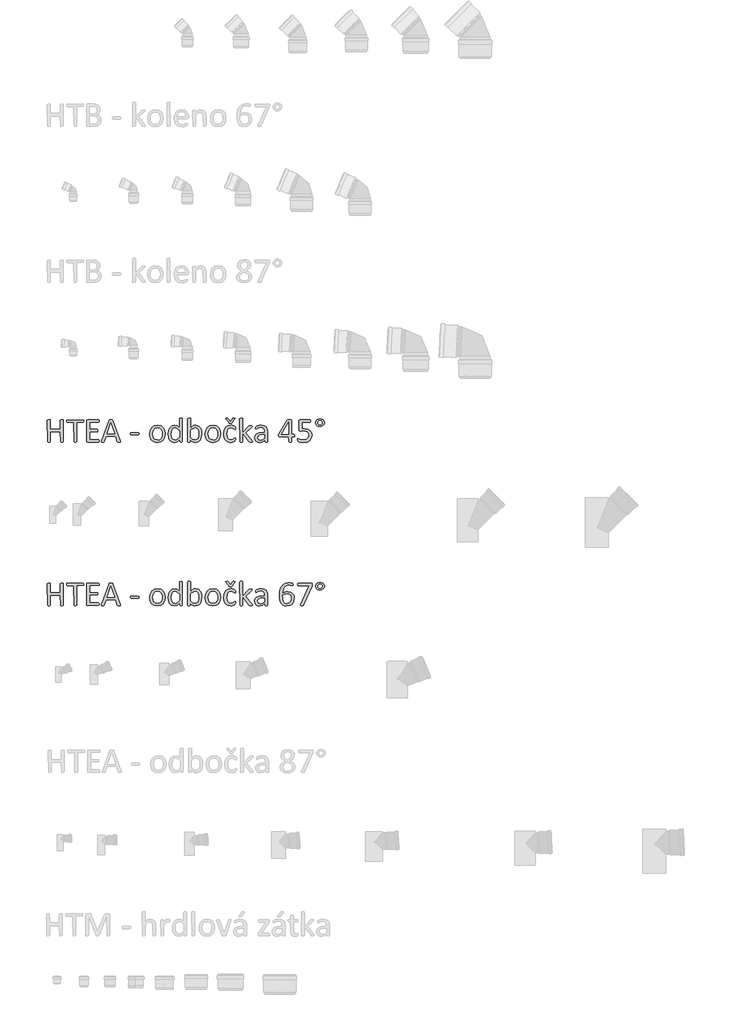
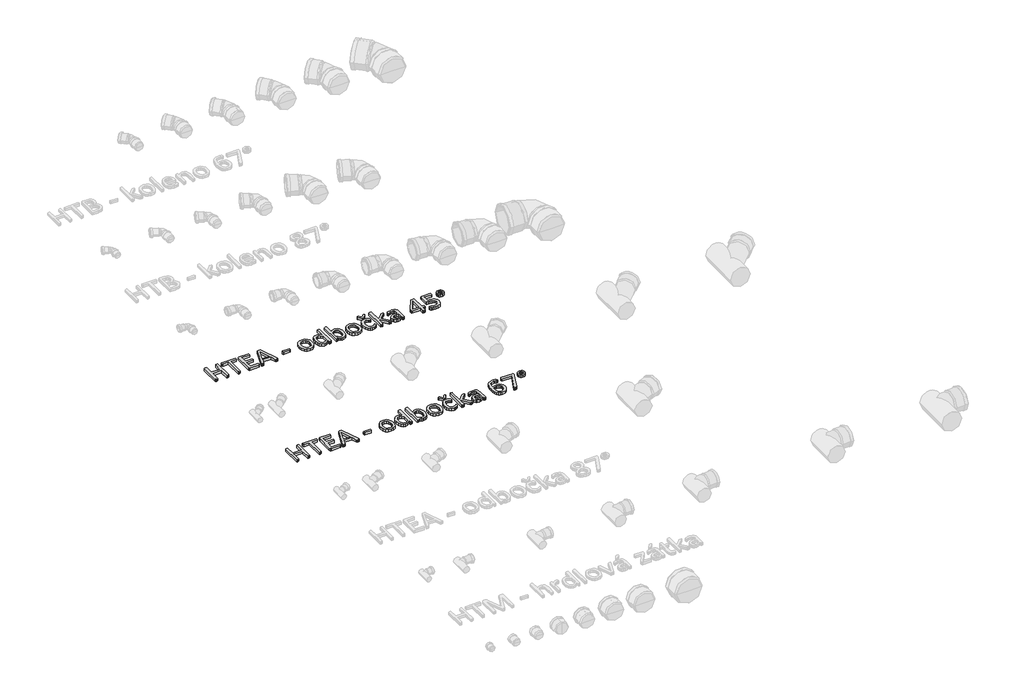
# One storey, part 23 of 26: 2 proxies.
"""IFC4 building model written with IfcOpenShell, lengths in millimetres."""

from ifc_helpers import new_model, si_unit, origin, origin_with_axes, place, context, project, spatial, polyline, outline, extrude, element, save

model = new_model("IFC4")

# Units and contexts
model_context = context("Model", 3, world=origin())
ifc_project = project(units=[si_unit("LENGTHUNIT", "METRE", prefix="MILLI")], contexts=[model_context])

# Site, building, storey
site = spatial("IfcSite", under=ifc_project)
building = spatial("IfcBuilding", under=site)
storey = spatial("IfcBuildingStorey", under=building, Name="Podlaží 1", Elevation=0.0)

# Proxies
placement = place(None, origin())
element("IfcBuildingElementProxy", 1, Name="120mm Arial", ObjectType="120mm Arial", at=placement, inside=storey, context=model_context, shape_type="SweptSolid", body=[
    extrude(outline(polyline([(-20465.0657483, 17908.0506997), (-20469.2817655, 17905.3184311), (-20473.1358927, 17905.0832026), (-20477.1166815, 17905.3184311), (-20479.5775327, 17905.8612659), (-20481.2784151, 17960.6694889), (-20534.5486061, 17960.6694889), (-20534.5486061, 17908.0145107), (-20538.7465288, 17905.3184311), (-20542.6549395, 17905.0832026), (-20546.5271613, 17905.3184311), (-20549.0603905, 17905.8793604), (-20550.7612729, 18022.5526591), (-20546.5271613, 18025.2849277), (-20542.6549395, 18025.5201562), (-20538.7465288, 18025.2849277), (-20536.2494886, 18024.7239984), (-20534.5486061, 17974.5660604), (-20481.2784151, 17974.5660604), (-20481.2784151, 18022.5526591), (-20477.1166815, 18025.2849277), (-20473.1358927, 18025.5201562), (-20469.2817655, 18025.2849277), (-20466.7666308, 18024.7239984), (-20465.0657483, 17908.0506997)])), origin_with_axes(), (0.0, 0.0, 1.0), 15.0),
    extrude(outline(polyline([(-20356.2092711, 18018.4633034), (-20356.390216, 18015.3329559), (-20356.9873343, 18013.1978056), (-20393.2667952, 18011.6235846), (-20393.2667952, 17908.0506997), (-20397.4647179, 17905.3184311), (-20401.3731287, 17905.0832026), (-20405.2453504, 17905.3184311), (-20407.7785796, 17905.8793604), (-20409.4794621, 18011.6235846), (-20443.3885442, 18011.6235846), (-20446.3017578, 18015.3329559), (-20446.5369862, 18018.4633034), (-20446.3017578, 18021.6660289), (-20445.686545, 18023.9097462), (-20359.3939021, 18025.5201562), (-20357.0054288, 18023.9097462), (-20356.390216, 18021.6660289), (-20356.2092711, 18018.4633034)])), origin_with_axes(), (0.0, 0.0, 1.0), 15.0),
    extrude(outline(polyline([(-20272.8298417, 17911.9952994), (-20273.0107867, 17908.9192354), (-20273.6621885, 17906.7298016), (-20274.7478581, 17905.463187), (-20334.0254212, 17905.0832026), (-20338.0785879, 17906.5307622), (-20339.9966043, 17911.5972206), (-20339.9966043, 18019.0061382), (-20338.0604934, 18024.0725966), (-20333.9530432, 18025.5201562), (-20276.0506617, 18025.5201562), (-20273.680283, 18023.8735572), (-20273.0650701, 18021.6841234), (-20272.8298417, 18018.4271144), (-20273.0650701, 18015.3691449), (-20273.680283, 18013.2159001), (-20323.7839374, 18011.6235846), (-20323.7839374, 17974.5660604), (-20282.9627585, 17974.5660604), (-20280.5742852, 17972.865178), (-20279.9590724, 17970.6757442), (-20279.7781275, 17967.3644517), (-20279.9590724, 17964.2702932), (-20280.5742852, 17962.1713319), (-20323.7839374, 17960.6694889), (-20323.7839374, 17918.9797742), (-20276.0868507, 17918.9797742), (-20273.6621885, 17917.3874587), (-20273.0107867, 17915.2342139), (-20272.8298417, 17911.9952994)])), origin_with_axes(), (0.0, 0.0, 1.0), 15.0),
    extrude(outline(polyline([(-20157.7488585, 17911.3438976), (-20156.9707952, 17908.0506997), (-20157.658386, 17906.1145888), (-20160.1192372, 17905.2641476), (-20164.6971443, 17905.0832026), (-20169.3112403, 17905.2279586), (-20171.898753, 17905.6984154), (-20173.9977143, 17907.9783217), (-20184.275387, 17937.5085363), (-20234.1800021, 17937.5085363), (-20243.9872179, 17908.3764006), (-20244.7471867, 17906.928841), (-20246.0861793, 17905.8793604), (-20248.5832195, 17905.2641476), (-20252.8173311, 17905.0832026), (-20257.2142932, 17905.3184311), (-20259.6208609, 17906.2050613), (-20260.2722627, 17908.1230777), (-20259.476105, 17911.4162756), (-20219.2339498, 18022.2269582), (-20218.2749417, 18023.8735572), (-20216.5016812, 18024.8687544), (-20213.5341842, 18025.3754002), (-20208.9562771, 18025.5201562), (-20204.0345747, 18025.3754002), (-20200.8680382, 18024.8687544), (-20199.0223998, 18023.8373682), (-20197.9910136, 18022.1545802), (-20157.7488585, 17911.3438976)]), holes=[polyline([(-20209.390545, 18009.3074893), (-20230.1630244, 17949.0890126), (-20188.4371207, 17949.0890126), (-20209.390545, 18009.3074893)])]), origin_with_axes(), (0.0, 0.0, 1.0), 15.0),
    extrude(outline(polyline([(-20057.4329825, 17950.2832492), (-20058.2834238, 17945.7234367), (-20060.7623695, 17944.4568221), (-20100.3531228, 17944.4568221), (-20102.9044465, 17945.7596256), (-20103.7548877, 17950.2832492), (-20102.9044465, 17954.7706838), (-20100.3531228, 17956.0372984), (-20060.7623695, 17956.0372984), (-20057.668211, 17952.9974233), (-20057.4329825, 17950.2832492)])), origin_with_axes(), (0.0, 0.0, 1.0), 15.0),
    extrude(outline(polyline([(-19916.1511717, 17949.9937373), (-19918.8291568, 17931.0126129), (-19926.8450178, 17916.0665606), (-19940.1987545, 17906.2774393), (-19958.7818001, 17902.7671074), (-19976.6953493, 17905.8612659), (-19989.4338733, 17914.8542295), (-19997.0335608, 17929.1850689), (-19999.530601, 17948.2928548), (-19996.8888049, 17967.2739793), (-19988.9272274, 17982.201937), (-19975.6277742, 17991.9367749), (-19957.0085396, 17995.4109178), (-19939.0768959, 17992.3167593), (-19926.3383719, 17983.3237956), (-19918.7024954, 17968.9929562), (-19916.1511717, 17949.9937373)]), holes=[polyline([(-19932.3638385, 17948.9080676), (-19933.6123586, 17961.4837411), (-19937.7198088, 17971.8699808), (-19945.4461578, 17978.9268335), (-19957.6237524, 17981.5143462), (-19969.1861342, 17979.1439675), (-19977.1477117, 17972.4490046), (-19981.7979967, 17962.2075209), (-19983.3179342, 17949.2699575), (-19982.0694141, 17936.6219061), (-19977.9257749, 17926.2718554), (-19970.1451424, 17919.2511916), (-19957.9856423, 17916.6636789), (-19946.4594495, 17919.0340577), (-19938.4435886, 17925.6747371), (-19933.8294925, 17935.8800318), (-19932.3638385, 17948.9080676)])]), origin_with_axes(), (0.0, 0.0, 1.0), 15.0),
    extrude(outline(polyline([(-19823.8330622, 17907.9783217), (-19827.2167326, 17905.2641476), (-19830.528025, 17905.0832026), (-19833.9659789, 17905.2641476), (-19836.2096962, 17905.7346044), (-19837.8743897, 17918.0388605), (-19851.3185989, 17906.8021796), (-19866.5722575, 17902.7671074), (-19881.9887666, 17906.3679117), (-19892.3207228, 17916.1027496), (-19898.1109609, 17930.542156), (-19899.9385049, 17948.0033429), (-19897.6585986, 17967.6358691), (-19890.9274467, 17982.5819214), (-19879.8898053, 17992.0815308), (-19864.6542411, 17995.4109178), (-19851.4995438, 17992.1720033), (-19839.7200281, 17982.6723938), (-19839.7200281, 18031.7808512), (-19838.0553346, 18033.9883794), (-19835.5582944, 18034.5493088), (-19831.7222617, 18034.7845372), (-19827.7052839, 18034.5493088), (-19825.2625272, 18033.9883794), (-19823.9416291, 18033.0655602), (-19823.8330622, 17907.9783217)]), holes=[polyline([(-19839.7200281, 17966.1702151), (-19851.3366934, 17977.587841), (-19863.0257367, 17981.5143462), (-19872.6158186, 17978.7639831), (-19879.0212695, 17971.5080909), (-19882.6039794, 17961.3027962), (-19883.725838, 17949.7404144), (-19882.7849243, 17937.5085363), (-19879.5098209, 17926.9051627), (-19873.3215039, 17919.4683255), (-19863.6409495, 17916.6636789), (-19857.9592783, 17917.4779312), (-19852.3499851, 17920.1740108), (-19846.3607075, 17925.0595243), (-19839.7200281, 17932.4782669), (-19839.7200281, 17966.1702151)])]), origin_with_axes(), (0.0, 0.0, 1.0), 15.0),
    extrude(outline(polyline([(-19719.2830746, 17950.1746822), (-19721.5991698, 17930.4516835), (-19728.4207942, 17915.5056313), (-19739.4946246, 17906.0422108), (-19754.5311493, 17902.7671074), (-19761.768947, 17903.5632651), (-19768.2829649, 17906.1507778), (-19774.6522269, 17910.6563069), (-19781.3833787, 17917.2065138), (-19781.3833787, 17907.7611878), (-19785.273695, 17905.2641476), (-19788.6573654, 17905.0832026), (-19791.9867524, 17905.2641476), (-19794.2485641, 17905.7707934), (-19795.7142182, 18031.8170401), (-19791.5886735, 18034.6035923), (-19787.6440737, 18034.7845372), (-19783.627096, 18034.6035923), (-19781.1843393, 18034.0426629), (-19779.8996302, 18033.1017492), (-19779.5015513, 17981.5505352), (-19772.4627931, 17988.0102696), (-19765.7859247, 17992.2805703), (-19759.2538123, 17994.6690435), (-19752.35981, 17995.4109178), (-19737.1423404, 17991.7558299), (-19726.8646677, 17981.9667086), (-19721.092524, 17967.5815857), (-19719.2830746, 17950.1746822)]), holes=[polyline([(-19735.4957414, 17948.4014218), (-19736.4366551, 17960.7237724), (-19739.729853, 17971.3090515), (-19745.9362646, 17978.7096996), (-19755.58063, 17981.5143462), (-19761.2261122, 17980.700094), (-19766.8896889, 17977.9859198), (-19772.8789665, 17973.1185009), (-19779.5015513, 17965.6273803), (-19779.5015513, 17932.00781), (-19767.8125081, 17920.5901842), (-19756.1958428, 17916.6636789), (-19746.6600443, 17919.4321366), (-19740.2184044, 17926.7423122), (-19736.6176, 17936.947607), (-19735.4957414, 17948.4014218)])]), origin_with_axes(), (0.0, 0.0, 1.0), 15.0),
    extrude(outline(polyline([(-19617.3748831, 17949.9937373), (-19620.0528683, 17931.0126129), (-19628.0687292, 17916.0665606), (-19641.422466, 17906.2774393), (-19660.0055115, 17902.7671074), (-19677.9190608, 17905.8612659), (-19690.6575847, 17914.8542295), (-19698.2572723, 17929.1850689), (-19700.7543125, 17948.2928548), (-19698.1125163, 17967.2739793), (-19690.1509389, 17982.201937), (-19676.8514856, 17991.9367749), (-19658.2322511, 17995.4109178), (-19640.3006073, 17992.3167593), (-19627.5620834, 17983.3237956), (-19619.9262068, 17968.9929562), (-19617.3748831, 17949.9937373)]), holes=[polyline([(-19633.58755, 17948.9080676), (-19634.8360701, 17961.4837411), (-19638.9435203, 17971.8699808), (-19646.6698693, 17978.9268335), (-19658.8474639, 17981.5143462), (-19670.4098457, 17979.1439675), (-19678.3714232, 17972.4490046), (-19683.0217082, 17962.2075209), (-19684.5416457, 17949.2699575), (-19683.2931256, 17936.6219061), (-19679.1494864, 17926.2718554), (-19671.3688539, 17919.2511916), (-19659.2093538, 17916.6636789), (-19647.683161, 17919.0340577), (-19639.6673, 17925.6747371), (-19635.053204, 17935.8800318), (-19633.58755, 17948.9080676)])]), origin_with_axes(), (0.0, 0.0, 1.0), 15.0),
    extrude(outline(polyline([(-19553.6822635, 18032.1065521), (-19552.5242159, 18033.3912611), (-19549.2310179, 18034.6578757), (-19546.3358988, 18034.7845372), (-19542.5541495, 18034.4769308), (-19540.7447001, 18033.5903006), (-19542.1017872, 18029.7904568), (-19557.0478394, 18009.3074893), (-19558.2239815, 18008.1494417), (-19559.816297, 18007.4799454), (-19562.1323923, 18007.1180555), (-19565.4798737, 18006.9913941), (-19568.6283157, 18007.1180555), (-19570.8539385, 18007.5161344), (-19572.3919705, 18008.2399142), (-19588.4236924, 18029.7904568), (-19589.8169684, 18032.0160796), (-19587.9170466, 18034.4769308), (-19584.1533918, 18034.7845372), (-19581.0411388, 18034.6578757), (-19579.1593114, 18034.2055134), (-19576.8432161, 18032.1065521), (-19565.2627398, 18015.9300742), (-19553.6822635, 18032.1065521)])), origin_with_axes(), (0.0, 0.0, 1.0), 15.0),
    extrude(outline(polyline([(-19536.311549, 17921.7301373), (-19536.4020215, 17919.1969081), (-19536.7277224, 17917.3874587), (-19538.7181168, 17913.7504654), (-19542.608433, 17910.222039), (-19548.7786556, 17906.4764787), (-19556.2154927, 17903.7984935), (-19564.53896, 17902.7671074), (-19580.244981, 17905.7707934), (-19591.6987958, 17914.5466231), (-19598.7375541, 17928.6965176), (-19601.1622163, 17948.0395319), (-19598.1947193, 17969.4815076), (-19590.0702914, 17984.1561424), (-19577.9288857, 17992.6424602), (-19562.8018886, 17995.4109178), (-19555.166012, 17994.5966655), (-19548.3624822, 17992.4615152), (-19542.825567, 17989.4216402), (-19539.3152351, 17986.4722376), (-19537.8133921, 17984.5361267), (-19537.1258013, 17982.9980947), (-19536.7639114, 17981.0981728), (-19536.6734389, 17978.4382822), (-19537.4876912, 17973.6251467), (-19539.459991, 17972.2499652), (-19542.5903385, 17973.6975247), (-19547.0596786, 17976.8821557), (-19553.62798, 17980.0667867), (-19562.6933216, 17981.5143462), (-19572.2155492, 17979.4153849), (-19579.2135948, 17973.1185009), (-19583.5155608, 17962.8227337), (-19584.9495495, 17948.7271227), (-19583.465801, 17934.7219842), (-19579.0869334, 17924.6614454), (-19571.9757971, 17918.6359788), (-19562.3314317, 17916.6636789), (-19553.3022791, 17918.4912229), (-19546.5711273, 17922.5082006), (-19541.7760863, 17926.4708948), (-19538.7362113, 17928.2441552), (-19536.4382105, 17924.6795399), (-19536.311549, 17921.7301373)])), origin_with_axes(), (0.0, 0.0, 1.0), 15.0),
    extrude(outline(polyline([(-19445.9838339, 17908.0145107), (-19450.0550951, 17905.2641476), (-19454.0539783, 17905.0832026), (-19458.179523, 17905.2279586), (-19460.9298861, 17905.6803209), (-19462.7393355, 17906.5850457), (-19464.0059501, 17908.0145107), (-19499.2540249, 17953.5764471), (-19499.2540249, 17907.9059437), (-19503.3795696, 17905.2641476), (-19507.3965473, 17905.0832026), (-19511.341147, 17905.2641476), (-19513.8381872, 17905.8250769), (-19515.4666917, 18031.8170401), (-19511.341147, 18034.6035923), (-19507.3965473, 18034.7845372), (-19503.3795696, 18034.6035923), (-19500.9368128, 18034.0426629), (-19499.6521038, 18033.1017492), (-19499.2540249, 17955.6754085), (-19467.0458252, 17989.9101915), (-19465.4354152, 17991.4120346), (-19463.4088318, 17992.4072317), (-19460.6222797, 17992.9500666), (-19456.7319635, 17993.0948225), (-19452.7511747, 17992.9500666), (-19450.1636621, 17992.4977042), (-19448.734197, 17991.683452), (-19448.9332365, 17988.1550256), (-19451.0502923, 17985.6037019), (-19483.0413581, 17955.7839754), (-19448.2637402, 17912.3210003), (-19446.5085742, 17909.8058656), (-19445.9838339, 17908.0145107)])), origin_with_axes(), (0.0, 0.0, 1.0), 15.0),
    extrude(outline(polyline([(-19364.9204998, 17907.8697547), (-19365.7166575, 17906.1869668), (-19367.8879969, 17905.35462), (-19371.9411636, 17905.0832026), (-19376.0486137, 17905.35462), (-19378.2742365, 17906.1869668), (-19378.9618273, 17907.8697547), (-19378.9618273, 17916.1932221), (-19391.1575164, 17906.5669512), (-19405.4159779, 17902.7671074), (-19417.3764385, 17904.4860843), (-19426.4779691, 17909.4620702), (-19432.3224908, 17917.4598367), (-19434.4033576, 17928.2441552), (-19431.526333, 17940.5122223), (-19423.2752437, 17949.1613906), (-19410.1205464, 17954.3183214), (-19392.605076, 17956.0372984), (-19381.1331666, 17956.0372984), (-19381.1331666, 17962.9493951), (-19382.1464583, 17971.9966423), (-19385.4034673, 17978.5468492), (-19391.2117999, 17982.4914489), (-19399.9876296, 17983.8304415), (-19410.0300739, 17982.3828819), (-19417.8107064, 17979.198251), (-19423.4019051, 17976.01362), (-19426.7312921, 17974.5660604), (-19429.5902221, 17978.0944868), (-19429.7711671, 17980.7543775), (-19429.4454662, 17984.5542212), (-19427.8531507, 17987.2141119), (-19423.5104721, 17989.928286), (-19416.4174303, 17992.6062712), (-19407.6416007, 17994.61476), (-19398.0334242, 17995.4109178), (-19382.6531041, 17993.3662399), (-19372.3935259, 17987.3950568), (-19366.6937602, 17977.6421245), (-19364.9204998, 17964.0350648), (-19364.9204998, 17907.8697547)]), holes=[polyline([(-19381.1331666, 17944.4568221), (-19394.0164465, 17944.4568221), (-19404.7645761, 17943.3892469), (-19412.3461691, 17940.2408049), (-19416.7793202, 17935.2467245), (-19418.1906908, 17928.5336671), (-19414.1375241, 17918.1836164), (-19402.7741817, 17914.3475837), (-19391.7727292, 17917.4055532), (-19381.1331666, 17926.7604067), (-19381.1331666, 17944.4568221)])]), origin_with_axes(), (0.0, 0.0, 1.0), 15.0),
    extrude(outline(polyline([(-19218.1379627, 17939.8246315), (-19219.0788764, 17934.7400787), (-19221.6844836, 17932.8763458), (-19235.2191652, 17932.8763458), (-19235.2191652, 17907.9421327), (-19236.9562367, 17905.8069824), (-19239.4894659, 17905.2641476), (-19243.4702546, 17905.0832026), (-19247.3424764, 17905.2641476), (-19249.8214221, 17905.8069824), (-19251.4318321, 17932.8763458), (-19300.4679114, 17932.8763458), (-19302.3135498, 17933.1658577), (-19303.6344479, 17934.2334328), (-19304.4667946, 17936.4590556), (-19304.702023, 17940.2227104), (-19304.6115506, 17943.5159084), (-19304.2496607, 17946.175799), (-19303.5077864, 17948.4918943), (-19302.4221168, 17950.862273), (-19259.6829214, 18022.6974151), (-19258.3077399, 18023.9640297), (-19255.9554556, 18024.8687544), (-19252.4089347, 18025.3754002), (-19247.4510433, 18025.5201562), (-19241.9503171, 18025.2849277), (-19238.1685678, 18024.6878094), (-19235.979134, 18023.7288012), (-19235.2191652, 17946.7729173), (-19221.6844836, 17946.7729173), (-19219.1150654, 17945.0539404), (-19218.1379627, 17939.8246315)]), holes=[polyline([(-19251.4318321, 18011.5873956), (-19290.1540497, 17946.7729173), (-19251.4318321, 17946.7729173), (-19251.4318321, 18011.5873956)])]), origin_with_axes(), (0.0, 0.0, 1.0), 15.0),
    extrude(outline(polyline([(-19126.362688, 17942.7197506), (-19129.6377915, 17925.7290205), (-19138.9021725, 17913.189536), (-19153.160634, 17905.426998), (-19171.5627346, 17902.7671074), (-19182.2203917, 17903.5632651), (-19191.1952608, 17905.535565), (-19197.6549952, 17907.8335658), (-19200.8758152, 17909.6249207), (-19202.7033591, 17914.2209222), (-19202.7938316, 17917.1341358), (-19202.6490756, 17919.9930659), (-19202.1243353, 17922.0558382), (-19197.1121604, 17922.5262951), (-19191.7561901, 17920.1740108), (-19183.4146283, 17917.7855376), (-19171.5989236, 17916.6636789), (-19159.9279748, 17918.129333), (-19150.7902552, 17922.743429), (-19144.7647886, 17930.6326285), (-19142.5753548, 17942.1769158), (-19144.4028988, 17952.2736436), (-19150.012192, 17959.5476302), (-19159.6022739, 17963.8722144), (-19173.480751, 17965.3016794), (-19183.3060613, 17964.7407501), (-19190.9600324, 17964.1798208), (-19194.7236872, 17965.3921519), (-19195.8455458, 17970.0786259), (-19195.8455458, 18019.4404061), (-19194.3979863, 18024.0183131), (-19190.2362526, 18025.5201562), (-19136.8574947, 18025.5201562), (-19134.2518875, 18023.8554627), (-19133.5462022, 18021.7203124), (-19133.3109738, 18018.6804373), (-19134.197604, 18013.469223), (-19136.6765497, 18011.6235846), (-19179.632879, 18011.6235846), (-19179.632879, 17976.2307539), (-19173.2817115, 17976.7916832), (-19165.8086854, 17976.8821557), (-19148.6008214, 17974.439399), (-19136.3327543, 17967.5453967), (-19128.8959172, 17956.7610781), (-19126.362688, 17942.7197506)])), origin_with_axes(), (0.0, 0.0, 1.0), 15.0),
    extrude(outline(polyline([(-19059.1959255, 18009.6693792), (-19060.9510914, 18001.4001954), (-19065.8908883, 17994.61476), (-19073.3820089, 17990.073042), (-19082.718768, 17988.462632), (-19091.910771, 17989.9463805), (-19099.0761907, 17994.1262087), (-19103.8169482, 18000.5859431), (-19105.5178307, 18008.9455995), (-19103.7083813, 18017.4500117), (-19098.7323953, 18024.1449746), (-19091.2955582, 18028.5419367), (-19081.9949882, 18030.1523467), (-19072.8572686, 18028.6324092), (-19065.6375654, 18024.452581), (-19060.8968079, 18018.0290355), (-19059.1959255, 18009.6693792)]), holes=[polyline([(-19070.7764018, 18009.3436783), (-19071.6449375, 18013.9396799), (-19074.0695997, 18017.6128622), (-19077.778971, 18020.0194299), (-19082.465445, 18020.8879656), (-19086.9890686, 18020.0194299), (-19090.6441564, 18017.6128622), (-19093.0688187, 18013.9939633), (-19093.9373544, 18009.5246233), (-19093.0688187, 18004.7114878), (-19090.5898729, 18001.0021165), (-19086.7900292, 17998.5955488), (-19082.0673662, 17997.727013), (-19077.6342151, 17998.6317377), (-19074.0334107, 18001.1287779), (-19071.6449375, 18004.8019603), (-19070.7764018, 18009.3436783)])]), origin_with_axes(), (0.0, 0.0, 1.0), 15.0),
])
element("IfcBuildingElementProxy", 2, Name="120mm Arial", ObjectType="120mm Arial", at=placement, inside=storey, context=model_context, shape_type="SweptSolid", body=[
    extrude(outline(polyline([(-20465.0657483, 17028.0506997), (-20469.2817655, 17025.3184311), (-20473.1358927, 17025.0832026), (-20477.1166815, 17025.3184311), (-20479.5775327, 17025.8612659), (-20481.2784151, 17080.6694889), (-20534.5486061, 17080.6694889), (-20534.5486061, 17028.0145107), (-20538.7465288, 17025.3184311), (-20542.6549395, 17025.0832026), (-20546.5271613, 17025.3184311), (-20549.0603905, 17025.8793604), (-20550.7612729, 17142.5526591), (-20546.5271613, 17145.2849277), (-20542.6549395, 17145.5201562), (-20538.7465288, 17145.2849277), (-20536.2494886, 17144.7239984), (-20534.5486061, 17094.5660604), (-20481.2784151, 17094.5660604), (-20481.2784151, 17142.5526591), (-20477.1166815, 17145.2849277), (-20473.1358927, 17145.5201562), (-20469.2817655, 17145.2849277), (-20466.7666308, 17144.7239984), (-20465.0657483, 17028.0506997)])), origin_with_axes(), (0.0, 0.0, 1.0), 15.0),
    extrude(outline(polyline([(-20356.2092711, 17138.4633034), (-20356.390216, 17135.3329559), (-20356.9873343, 17133.1978056), (-20393.2667952, 17131.6235846), (-20393.2667952, 17028.0506997), (-20397.4647179, 17025.3184311), (-20401.3731287, 17025.0832026), (-20405.2453504, 17025.3184311), (-20407.7785796, 17025.8793604), (-20409.4794621, 17131.6235846), (-20443.3885442, 17131.6235846), (-20446.3017578, 17135.3329559), (-20446.5369862, 17138.4633034), (-20446.3017578, 17141.6660289), (-20445.686545, 17143.9097462), (-20359.3939021, 17145.5201562), (-20357.0054288, 17143.9097462), (-20356.390216, 17141.6660289), (-20356.2092711, 17138.4633034)])), origin_with_axes(), (0.0, 0.0, 1.0), 15.0),
    extrude(outline(polyline([(-20272.8298417, 17031.9952994), (-20273.0107867, 17028.9192354), (-20273.6621885, 17026.7298016), (-20274.7478581, 17025.463187), (-20334.0254212, 17025.0832026), (-20338.0785879, 17026.5307622), (-20339.9966043, 17031.5972206), (-20339.9966043, 17139.0061382), (-20338.0604934, 17144.0725966), (-20333.9530432, 17145.5201562), (-20276.0506617, 17145.5201562), (-20273.680283, 17143.8735572), (-20273.0650701, 17141.6841234), (-20272.8298417, 17138.4271144), (-20273.0650701, 17135.3691449), (-20273.680283, 17133.2159001), (-20323.7839374, 17131.6235846), (-20323.7839374, 17094.5660604), (-20282.9627585, 17094.5660604), (-20280.5742852, 17092.865178), (-20279.9590724, 17090.6757442), (-20279.7781275, 17087.3644517), (-20279.9590724, 17084.2702932), (-20280.5742852, 17082.1713319), (-20323.7839374, 17080.6694889), (-20323.7839374, 17038.9797742), (-20276.0868507, 17038.9797742), (-20273.6621885, 17037.3874587), (-20273.0107867, 17035.2342139), (-20272.8298417, 17031.9952994)])), origin_with_axes(), (0.0, 0.0, 1.0), 15.0),
    extrude(outline(polyline([(-20157.7488585, 17031.3438976), (-20156.9707952, 17028.0506997), (-20157.658386, 17026.1145888), (-20160.1192372, 17025.2641476), (-20164.6971443, 17025.0832026), (-20169.3112403, 17025.2279586), (-20171.898753, 17025.6984154), (-20173.9977143, 17027.9783217), (-20184.275387, 17057.5085363), (-20234.1800021, 17057.5085363), (-20243.9872179, 17028.3764006), (-20244.7471867, 17026.928841), (-20246.0861793, 17025.8793604), (-20248.5832195, 17025.2641476), (-20252.8173311, 17025.0832026), (-20257.2142932, 17025.3184311), (-20259.6208609, 17026.2050613), (-20260.2722627, 17028.1230777), (-20259.476105, 17031.4162756), (-20219.2339498, 17142.2269582), (-20218.2749417, 17143.8735572), (-20216.5016812, 17144.8687544), (-20213.5341842, 17145.3754002), (-20208.9562771, 17145.5201562), (-20204.0345747, 17145.3754002), (-20200.8680382, 17144.8687544), (-20199.0223998, 17143.8373682), (-20197.9910136, 17142.1545802), (-20157.7488585, 17031.3438976)]), holes=[polyline([(-20209.390545, 17129.3074893), (-20230.1630244, 17069.0890126), (-20188.4371207, 17069.0890126), (-20209.390545, 17129.3074893)])]), origin_with_axes(), (0.0, 0.0, 1.0), 15.0),
    extrude(outline(polyline([(-20057.4329825, 17070.2832492), (-20058.2834238, 17065.7234367), (-20060.7623695, 17064.4568221), (-20100.3531228, 17064.4568221), (-20102.9044465, 17065.7596256), (-20103.7548877, 17070.2832492), (-20102.9044465, 17074.7706838), (-20100.3531228, 17076.0372984), (-20060.7623695, 17076.0372984), (-20057.668211, 17072.9974233), (-20057.4329825, 17070.2832492)])), origin_with_axes(), (0.0, 0.0, 1.0), 15.0),
    extrude(outline(polyline([(-19916.1511717, 17069.9937373), (-19918.8291568, 17051.0126129), (-19926.8450178, 17036.0665606), (-19940.1987545, 17026.2774393), (-19958.7818001, 17022.7671074), (-19976.6953493, 17025.8612659), (-19989.4338733, 17034.8542295), (-19997.0335608, 17049.1850689), (-19999.530601, 17068.2928548), (-19996.8888049, 17087.2739793), (-19988.9272274, 17102.201937), (-19975.6277742, 17111.9367749), (-19957.0085396, 17115.4109178), (-19939.0768959, 17112.3167593), (-19926.3383719, 17103.3237956), (-19918.7024954, 17088.9929562), (-19916.1511717, 17069.9937373)]), holes=[polyline([(-19932.3638385, 17068.9080676), (-19933.6123586, 17081.4837411), (-19937.7198088, 17091.8699808), (-19945.4461578, 17098.9268335), (-19957.6237524, 17101.5143462), (-19969.1861342, 17099.1439675), (-19977.1477117, 17092.4490046), (-19981.7979967, 17082.2075209), (-19983.3179342, 17069.2699575), (-19982.0694141, 17056.6219061), (-19977.9257749, 17046.2718554), (-19970.1451424, 17039.2511916), (-19957.9856423, 17036.6636789), (-19946.4594495, 17039.0340577), (-19938.4435886, 17045.6747371), (-19933.8294925, 17055.8800318), (-19932.3638385, 17068.9080676)])]), origin_with_axes(), (0.0, 0.0, 1.0), 15.0),
    extrude(outline(polyline([(-19823.8330622, 17027.9783217), (-19827.2167326, 17025.2641476), (-19830.528025, 17025.0832026), (-19833.9659789, 17025.2641476), (-19836.2096962, 17025.7346044), (-19837.8743897, 17038.0388605), (-19851.3185989, 17026.8021796), (-19866.5722575, 17022.7671074), (-19881.9887666, 17026.3679117), (-19892.3207228, 17036.1027496), (-19898.1109609, 17050.542156), (-19899.9385049, 17068.0033429), (-19897.6585986, 17087.6358691), (-19890.9274467, 17102.5819214), (-19879.8898053, 17112.0815308), (-19864.6542411, 17115.4109178), (-19851.4995438, 17112.1720033), (-19839.7200281, 17102.6723938), (-19839.7200281, 17151.7808512), (-19838.0553346, 17153.9883794), (-19835.5582944, 17154.5493088), (-19831.7222617, 17154.7845372), (-19827.7052839, 17154.5493088), (-19825.2625272, 17153.9883794), (-19823.9416291, 17153.0655602), (-19823.8330622, 17027.9783217)]), holes=[polyline([(-19839.7200281, 17086.1702151), (-19851.3366934, 17097.587841), (-19863.0257367, 17101.5143462), (-19872.6158186, 17098.7639831), (-19879.0212695, 17091.5080909), (-19882.6039794, 17081.3027962), (-19883.725838, 17069.7404144), (-19882.7849243, 17057.5085363), (-19879.5098209, 17046.9051627), (-19873.3215039, 17039.4683255), (-19863.6409495, 17036.6636789), (-19857.9592783, 17037.4779312), (-19852.3499851, 17040.1740108), (-19846.3607075, 17045.0595243), (-19839.7200281, 17052.4782669), (-19839.7200281, 17086.1702151)])]), origin_with_axes(), (0.0, 0.0, 1.0), 15.0),
    extrude(outline(polyline([(-19719.2830746, 17070.1746822), (-19721.5991698, 17050.4516835), (-19728.4207942, 17035.5056313), (-19739.4946246, 17026.0422108), (-19754.5311493, 17022.7671074), (-19761.768947, 17023.5632651), (-19768.2829649, 17026.1507778), (-19774.6522269, 17030.6563069), (-19781.3833787, 17037.2065138), (-19781.3833787, 17027.7611878), (-19785.273695, 17025.2641476), (-19788.6573654, 17025.0832026), (-19791.9867524, 17025.2641476), (-19794.2485641, 17025.7707934), (-19795.7142182, 17151.8170401), (-19791.5886735, 17154.6035923), (-19787.6440737, 17154.7845372), (-19783.627096, 17154.6035923), (-19781.1843393, 17154.0426629), (-19779.8996302, 17153.1017492), (-19779.5015513, 17101.5505352), (-19772.4627931, 17108.0102696), (-19765.7859247, 17112.2805703), (-19759.2538123, 17114.6690435), (-19752.35981, 17115.4109178), (-19737.1423404, 17111.7558299), (-19726.8646677, 17101.9667086), (-19721.092524, 17087.5815857), (-19719.2830746, 17070.1746822)]), holes=[polyline([(-19735.4957414, 17068.4014218), (-19736.4366551, 17080.7237724), (-19739.729853, 17091.3090515), (-19745.9362646, 17098.7096996), (-19755.58063, 17101.5143462), (-19761.2261122, 17100.700094), (-19766.8896889, 17097.9859198), (-19772.8789665, 17093.1185009), (-19779.5015513, 17085.6273803), (-19779.5015513, 17052.00781), (-19767.8125081, 17040.5901842), (-19756.1958428, 17036.6636789), (-19746.6600443, 17039.4321366), (-19740.2184044, 17046.7423122), (-19736.6176, 17056.947607), (-19735.4957414, 17068.4014218)])]), origin_with_axes(), (0.0, 0.0, 1.0), 15.0),
    extrude(outline(polyline([(-19617.3748831, 17069.9937373), (-19620.0528683, 17051.0126129), (-19628.0687292, 17036.0665606), (-19641.422466, 17026.2774393), (-19660.0055115, 17022.7671074), (-19677.9190608, 17025.8612659), (-19690.6575847, 17034.8542295), (-19698.2572723, 17049.1850689), (-19700.7543125, 17068.2928548), (-19698.1125163, 17087.2739793), (-19690.1509389, 17102.201937), (-19676.8514856, 17111.9367749), (-19658.2322511, 17115.4109178), (-19640.3006073, 17112.3167593), (-19627.5620834, 17103.3237956), (-19619.9262068, 17088.9929562), (-19617.3748831, 17069.9937373)]), holes=[polyline([(-19633.58755, 17068.9080676), (-19634.8360701, 17081.4837411), (-19638.9435203, 17091.8699808), (-19646.6698693, 17098.9268335), (-19658.8474639, 17101.5143462), (-19670.4098457, 17099.1439675), (-19678.3714232, 17092.4490046), (-19683.0217082, 17082.2075209), (-19684.5416457, 17069.2699575), (-19683.2931256, 17056.6219061), (-19679.1494864, 17046.2718554), (-19671.3688539, 17039.2511916), (-19659.2093538, 17036.6636789), (-19647.683161, 17039.0340577), (-19639.6673, 17045.6747371), (-19635.053204, 17055.8800318), (-19633.58755, 17068.9080676)])]), origin_with_axes(), (0.0, 0.0, 1.0), 15.0),
    extrude(outline(polyline([(-19553.6822635, 17152.1065521), (-19552.5242159, 17153.3912611), (-19549.2310179, 17154.6578757), (-19546.3358988, 17154.7845372), (-19542.5541495, 17154.4769308), (-19540.7447001, 17153.5903006), (-19542.1017872, 17149.7904568), (-19557.0478394, 17129.3074893), (-19558.2239815, 17128.1494417), (-19559.816297, 17127.4799454), (-19562.1323923, 17127.1180555), (-19565.4798737, 17126.9913941), (-19568.6283157, 17127.1180555), (-19570.8539385, 17127.5161344), (-19572.3919705, 17128.2399142), (-19588.4236924, 17149.7904568), (-19589.8169684, 17152.0160796), (-19587.9170466, 17154.4769308), (-19584.1533918, 17154.7845372), (-19581.0411388, 17154.6578757), (-19579.1593114, 17154.2055134), (-19576.8432161, 17152.1065521), (-19565.2627398, 17135.9300742), (-19553.6822635, 17152.1065521)])), origin_with_axes(), (0.0, 0.0, 1.0), 15.0),
    extrude(outline(polyline([(-19536.311549, 17041.7301373), (-19536.4020215, 17039.1969081), (-19536.7277224, 17037.3874587), (-19538.7181168, 17033.7504654), (-19542.608433, 17030.222039), (-19548.7786556, 17026.4764787), (-19556.2154927, 17023.7984935), (-19564.53896, 17022.7671074), (-19580.244981, 17025.7707934), (-19591.6987958, 17034.5466231), (-19598.7375541, 17048.6965176), (-19601.1622163, 17068.0395319), (-19598.1947193, 17089.4815076), (-19590.0702914, 17104.1561424), (-19577.9288857, 17112.6424602), (-19562.8018886, 17115.4109178), (-19555.166012, 17114.5966655), (-19548.3624822, 17112.4615152), (-19542.825567, 17109.4216402), (-19539.3152351, 17106.4722376), (-19537.8133921, 17104.5361267), (-19537.1258013, 17102.9980947), (-19536.7639114, 17101.0981728), (-19536.6734389, 17098.4382822), (-19537.4876912, 17093.6251467), (-19539.459991, 17092.2499652), (-19542.5903385, 17093.6975247), (-19547.0596786, 17096.8821557), (-19553.62798, 17100.0667867), (-19562.6933216, 17101.5143462), (-19572.2155492, 17099.4153849), (-19579.2135948, 17093.1185009), (-19583.5155608, 17082.8227337), (-19584.9495495, 17068.7271227), (-19583.465801, 17054.7219842), (-19579.0869334, 17044.6614454), (-19571.9757971, 17038.6359788), (-19562.3314317, 17036.6636789), (-19553.3022791, 17038.4912229), (-19546.5711273, 17042.5082006), (-19541.7760863, 17046.4708948), (-19538.7362113, 17048.2441552), (-19536.4382105, 17044.6795399), (-19536.311549, 17041.7301373)])), origin_with_axes(), (0.0, 0.0, 1.0), 15.0),
    extrude(outline(polyline([(-19445.9838339, 17028.0145107), (-19450.0550951, 17025.2641476), (-19454.0539783, 17025.0832026), (-19458.179523, 17025.2279586), (-19460.9298861, 17025.6803209), (-19462.7393355, 17026.5850457), (-19464.0059501, 17028.0145107), (-19499.2540249, 17073.5764471), (-19499.2540249, 17027.9059437), (-19503.3795696, 17025.2641476), (-19507.3965473, 17025.0832026), (-19511.341147, 17025.2641476), (-19513.8381872, 17025.8250769), (-19515.4666917, 17151.8170401), (-19511.341147, 17154.6035923), (-19507.3965473, 17154.7845372), (-19503.3795696, 17154.6035923), (-19500.9368128, 17154.0426629), (-19499.6521038, 17153.1017492), (-19499.2540249, 17075.6754085), (-19467.0458252, 17109.9101915), (-19465.4354152, 17111.4120346), (-19463.4088318, 17112.4072317), (-19460.6222797, 17112.9500666), (-19456.7319635, 17113.0948225), (-19452.7511747, 17112.9500666), (-19450.1636621, 17112.4977042), (-19448.734197, 17111.683452), (-19448.9332365, 17108.1550256), (-19451.0502923, 17105.6037019), (-19483.0413581, 17075.7839754), (-19448.2637402, 17032.3210003), (-19446.5085742, 17029.8058656), (-19445.9838339, 17028.0145107)])), origin_with_axes(), (0.0, 0.0, 1.0), 15.0),
    extrude(outline(polyline([(-19364.9204998, 17027.8697547), (-19365.7166575, 17026.1869668), (-19367.8879969, 17025.35462), (-19371.9411636, 17025.0832026), (-19376.0486137, 17025.35462), (-19378.2742365, 17026.1869668), (-19378.9618273, 17027.8697547), (-19378.9618273, 17036.1932221), (-19391.1575164, 17026.5669512), (-19405.4159779, 17022.7671074), (-19417.3764385, 17024.4860843), (-19426.4779691, 17029.4620702), (-19432.3224908, 17037.4598367), (-19434.4033576, 17048.2441552), (-19431.526333, 17060.5122223), (-19423.2752437, 17069.1613906), (-19410.1205464, 17074.3183214), (-19392.605076, 17076.0372984), (-19381.1331666, 17076.0372984), (-19381.1331666, 17082.9493951), (-19382.1464583, 17091.9966423), (-19385.4034673, 17098.5468492), (-19391.2117999, 17102.4914489), (-19399.9876296, 17103.8304415), (-19410.0300739, 17102.3828819), (-19417.8107064, 17099.198251), (-19423.4019051, 17096.01362), (-19426.7312921, 17094.5660604), (-19429.5902221, 17098.0944868), (-19429.7711671, 17100.7543775), (-19429.4454662, 17104.5542212), (-19427.8531507, 17107.2141119), (-19423.5104721, 17109.928286), (-19416.4174303, 17112.6062712), (-19407.6416007, 17114.61476), (-19398.0334242, 17115.4109178), (-19382.6531041, 17113.3662399), (-19372.3935259, 17107.3950568), (-19366.6937602, 17097.6421245), (-19364.9204998, 17084.0350648), (-19364.9204998, 17027.8697547)]), holes=[polyline([(-19381.1331666, 17064.4568221), (-19394.0164465, 17064.4568221), (-19404.7645761, 17063.3892469), (-19412.3461691, 17060.2408049), (-19416.7793202, 17055.2467245), (-19418.1906908, 17048.5336671), (-19414.1375241, 17038.1836164), (-19402.7741817, 17034.3475837), (-19391.7727292, 17037.4055532), (-19381.1331666, 17046.7604067), (-19381.1331666, 17064.4568221)])]), origin_with_axes(), (0.0, 0.0, 1.0), 15.0),
    extrude(outline(polyline([(-19221.3225937, 17063.9501762), (-19223.7291614, 17048.4793837), (-19231.147904, 17035.3246864), (-19243.850239, 17026.2050613), (-19261.9990167, 17022.7671074), (-19275.2441865, 17024.6489348), (-19285.2504418, 17030.0049051), (-19292.325389, 17038.5455063), (-19296.867107, 17050.1078881), (-19299.3279583, 17064.3120661), (-19300.0698325, 17080.8504338), (-19299.2555803, 17096.6288328), (-19296.3242722, 17112.0453419), (-19290.606412, 17125.9961969), (-19281.5772594, 17137.3595393), (-19268.5673181, 17145.0135103), (-19250.9251862, 17147.8362514), (-19244.0854674, 17147.456267), (-19237.6800165, 17146.4429754), (-19232.7402195, 17145.0496993), (-19230.0984234, 17143.8192737), (-19228.2708795, 17138.2099805), (-19228.3251629, 17135.4958064), (-19228.6870528, 17133.5596955), (-19233.5363773, 17132.7454432), (-19237.7162054, 17134.1749083), (-19243.669294, 17135.6043733), (-19251.7937219, 17136.2557751), (-19266.3416953, 17132.5644983), (-19276.2936671, 17122.6487155), (-19282.0115273, 17108.2093091), (-19284.1466776, 17091.3814295), (-19278.7364238, 17094.1860761), (-19272.1500279, 17096.6831163), (-19264.6227183, 17098.4925657), (-19256.1002116, 17099.198251), (-19239.7427888, 17096.5202658), (-19228.9584702, 17089.1015232), (-19223.0777596, 17077.9191258), (-19221.3225937, 17063.9501762)]), holes=[polyline([(-19237.5352605, 17063.4797194), (-19238.6028357, 17073.4497857), (-19242.1493565, 17081.0856622), (-19248.7900359, 17085.9168922), (-19259.0315196, 17087.6177747), (-19265.853144, 17087.0025619), (-19272.4576343, 17085.3016794), (-19278.5554789, 17082.7503557), (-19283.8571657, 17079.5838192), (-19282.3372282, 17059.1189463), (-19277.9040771, 17045.9099655), (-19270.6662794, 17038.7988293), (-19260.5152682, 17036.6636789), (-19250.2737844, 17038.9435852), (-19243.0721757, 17045.0595243), (-19238.8742531, 17053.6725035), (-19237.5352605, 17063.4797194)])]), origin_with_axes(), (0.0, 0.0, 1.0), 15.0),
    extrude(outline(polyline([(-19124.0465928, 17138.7166263), (-19124.1913487, 17135.7129403), (-19124.5713331, 17133.1254276), (-19125.2227349, 17130.7369544), (-19126.1817431, 17128.2941977), (-19169.6809072, 17028.7021015), (-19170.8389548, 17026.8926521), (-19172.6122152, 17025.7888879), (-19175.3625784, 17025.2279586), (-19179.4519341, 17025.0832026), (-19184.4098255, 17025.35462), (-19186.9792437, 17026.2412503), (-19187.6849289, 17027.7249988), (-19187.0154326, 17029.8239601), (-19141.3087402, 17131.6235846), (-19199.2473107, 17131.6235846), (-19201.9072014, 17133.469223), (-19202.7938316, 17138.6080594), (-19202.5586032, 17141.6660289), (-19201.8529179, 17143.8192737), (-19200.7310593, 17145.1039828), (-19128.8959172, 17145.5201562), (-19126.6160109, 17145.2487387), (-19125.1141679, 17144.1449746), (-19124.3180102, 17142.0279188), (-19124.0465928, 17138.7166263)])), origin_with_axes(), (0.0, 0.0, 1.0), 15.0),
    extrude(outline(polyline([(-19059.1959255, 17129.6693792), (-19060.9510914, 17121.4001954), (-19065.8908883, 17114.61476), (-19073.3820089, 17110.073042), (-19082.718768, 17108.462632), (-19091.910771, 17109.9463805), (-19099.0761907, 17114.1262087), (-19103.8169482, 17120.5859431), (-19105.5178307, 17128.9455995), (-19103.7083813, 17137.4500117), (-19098.7323953, 17144.1449746), (-19091.2955582, 17148.5419367), (-19081.9949882, 17150.1523467), (-19072.8572686, 17148.6324092), (-19065.6375654, 17144.452581), (-19060.8968079, 17138.0290355), (-19059.1959255, 17129.6693792)]), holes=[polyline([(-19070.7764018, 17129.3436783), (-19071.6449375, 17133.9396799), (-19074.0695997, 17137.6128622), (-19077.778971, 17140.0194299), (-19082.465445, 17140.8879656), (-19086.9890686, 17140.0194299), (-19090.6441564, 17137.6128622), (-19093.0688187, 17133.9939633), (-19093.9373544, 17129.5246233), (-19093.0688187, 17124.7114878), (-19090.5898729, 17121.0021165), (-19086.7900292, 17118.5955488), (-19082.0673662, 17117.727013), (-19077.6342151, 17118.6317377), (-19074.0334107, 17121.1287779), (-19071.6449375, 17124.8019603), (-19070.7764018, 17129.3436783)])]), origin_with_axes(), (0.0, 0.0, 1.0), 15.0),
])

save(model, "model.ifc")
